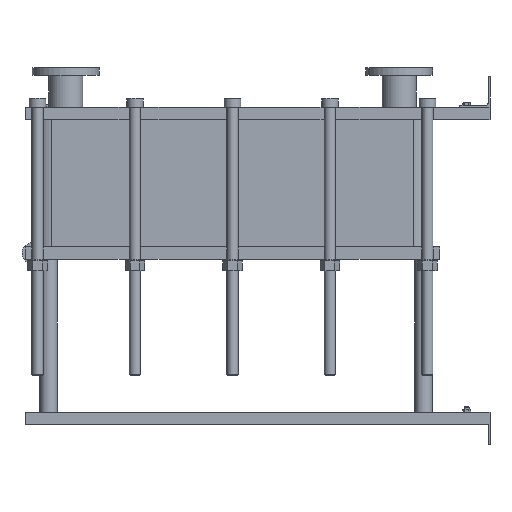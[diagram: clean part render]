
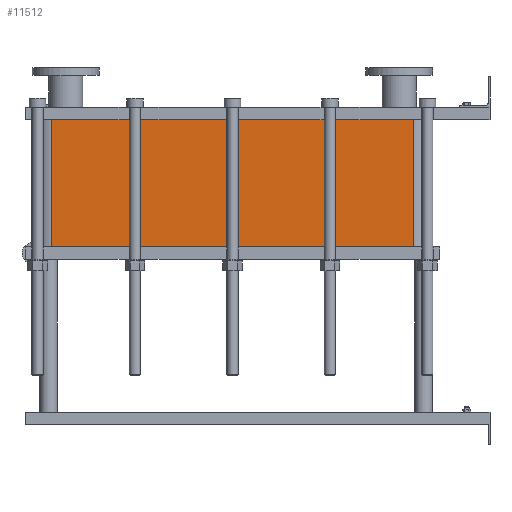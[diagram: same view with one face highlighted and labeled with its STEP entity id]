
A CAD part, left-side view. The second image highlights one B-rep face of the part: STEP entity #11512.
In plain terms, the highlighted planar face has unit normal (-1, 0, 0).
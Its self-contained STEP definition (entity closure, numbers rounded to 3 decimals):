
#1129=LINE('',#23232,#2102);
#1130=LINE('',#23236,#2103);
#1131=LINE('',#23238,#2104);
#1132=LINE('',#23239,#2105);
#2102=VECTOR('',#15887,10.);
#2103=VECTOR('',#15892,10.);
#2104=VECTOR('',#15893,10.);
#2105=VECTOR('',#15894,10.);
#3267=FACE_OUTER_BOUND('',#4093,.T.);
#4093=EDGE_LOOP('',(#10103,#10104,#10105,#10106));
#5642=VERTEX_POINT('',#23229);
#5643=VERTEX_POINT('',#23231);
#5644=VERTEX_POINT('',#23235);
#5645=VERTEX_POINT('',#23237);
#7159=EDGE_CURVE('',#5643,#5642,#1129,.T.);
#7161=EDGE_CURVE('',#5642,#5644,#1130,.T.);
#7162=EDGE_CURVE('',#5645,#5644,#1131,.T.);
#7163=EDGE_CURVE('',#5645,#5643,#1132,.T.);
#10103=ORIENTED_EDGE('',*,*,#7161,.T.);
#10104=ORIENTED_EDGE('',*,*,#7162,.F.);
#10105=ORIENTED_EDGE('',*,*,#7163,.T.);
#10106=ORIENTED_EDGE('',*,*,#7159,.T.);
#10857=PLANE('',#12751);
#11512=ADVANCED_FACE('',(#3267),#10857,.T.);
#12751=AXIS2_PLACEMENT_3D('',#23234,#15890,#15891);
#15887=DIRECTION('',(0.,0.,-1.));
#15890=DIRECTION('center_axis',(-1.,0.,0.));
#15891=DIRECTION('ref_axis',(0.,1.,0.));
#15892=DIRECTION('',(0.,-1.,0.));
#15893=DIRECTION('',(0.,0.,-1.));
#15894=DIRECTION('',(0.,1.,0.));
#23229=CARTESIAN_POINT('',(-200.,1414.,-410.55));
#23231=CARTESIAN_POINT('',(-200.,1414.,0.));
#23232=CARTESIAN_POINT('',(-200.,1414.,0.));
#23234=CARTESIAN_POINT('Origin',(-200.,248.,0.));
#23235=CARTESIAN_POINT('',(-200.,248.,-410.55));
#23236=CARTESIAN_POINT('',(-200.,539.5,-410.55));
#23237=CARTESIAN_POINT('',(-200.,248.,0.));
#23238=CARTESIAN_POINT('',(-200.,248.,0.));
#23239=CARTESIAN_POINT('',(-200.,248.,0.));
